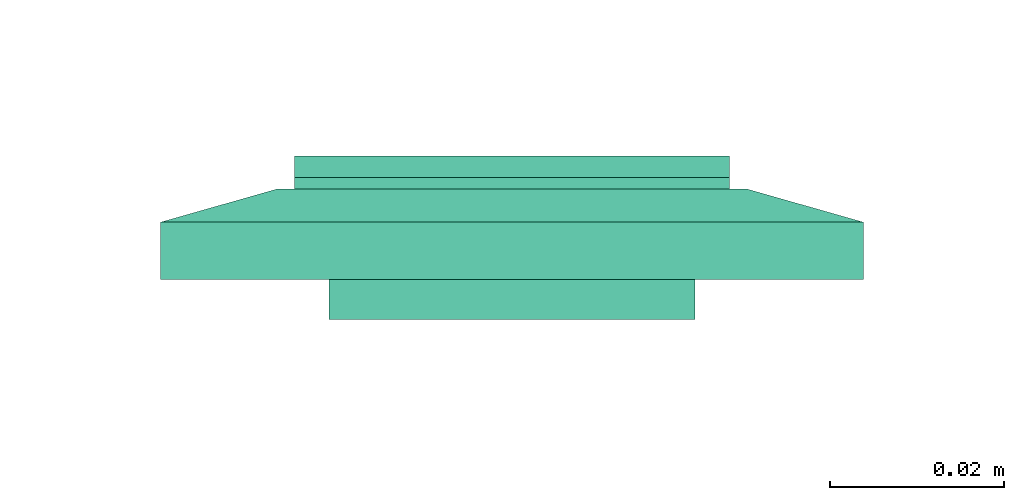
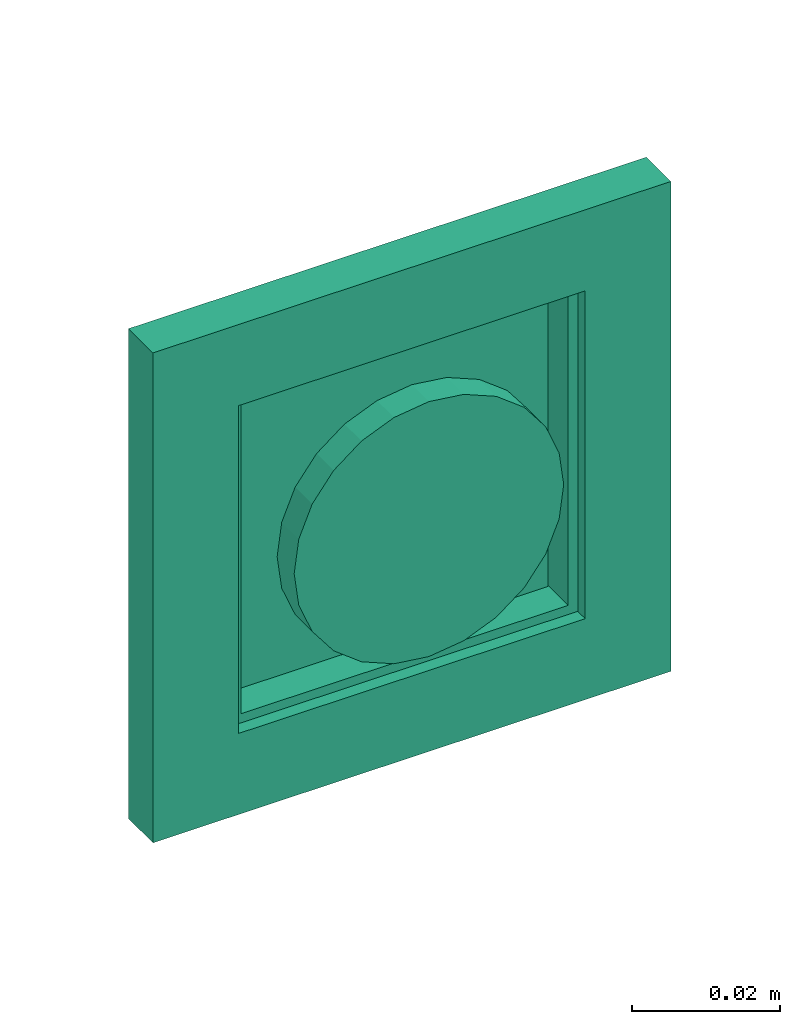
# One storey, part 39 of 153: 1 flow terminal.
"""IFC2X3 building model written with IfcOpenShell, lengths in metres."""

from ifc_helpers import new_model, entity, si_unit, converted_unit, derived_unit, direction, frame, origin, place, context, subcontext, project, spatial, faceted_brep, source, transform, mapped, type_object, type_shapes, element, save


model = new_model("IFC2X3")

# Units and contexts
model_context = context("Model", 3, precision=1e-05, world=origin(), true_north=direction((6.12303176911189e-17, 1.0)))
body_context = subcontext(model_context, "Body", "Model", "MODEL_VIEW")
ifc_project = project(units=[si_unit("LENGTHUNIT", "METRE"), si_unit("AREAUNIT", "SQUARE_METRE"), si_unit("VOLUMEUNIT", "CUBIC_METRE"), converted_unit("PLANEANGLEUNIT", "DEGREE", entity("IfcRatioMeasure", 0.0174532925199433), si_unit("PLANEANGLEUNIT", "RADIAN"), dimensions=[0, 0, 0, 0, 0, 0, 0]), si_unit("MASSUNIT", "GRAM", prefix="KILO"), derived_unit("MASSDENSITYUNIT", [(si_unit("MASSUNIT", "GRAM", prefix="KILO"), 1), (si_unit("LENGTHUNIT", "METRE"), -3)]), si_unit("TIMEUNIT", "SECOND"), si_unit("FREQUENCYUNIT", "HERTZ"), si_unit("THERMODYNAMICTEMPERATUREUNIT", "DEGREE_CELSIUS"), derived_unit("THERMALTRANSMITTANCEUNIT", [(si_unit("MASSUNIT", "GRAM", prefix="KILO"), 1), (si_unit("THERMODYNAMICTEMPERATUREUNIT", "KELVIN"), -1), (si_unit("TIMEUNIT", "SECOND"), -3)]), derived_unit("VOLUMETRICFLOWRATEUNIT", [(si_unit("LENGTHUNIT", "METRE"), 3), (si_unit("TIMEUNIT", "SECOND"), -1)]), si_unit("ELECTRICCURRENTUNIT", "AMPERE"), si_unit("ELECTRICVOLTAGEUNIT", "VOLT"), si_unit("POWERUNIT", "WATT"), si_unit("FORCEUNIT", "NEWTON"), si_unit("ILLUMINANCEUNIT", "LUX"), si_unit("LUMINOUSFLUXUNIT", "LUMEN"), si_unit("LUMINOUSINTENSITYUNIT", "CANDELA"), derived_unit("USERDEFINED", [(si_unit("MASSUNIT", "GRAM", prefix="KILO"), -1), (si_unit("LENGTHUNIT", "METRE"), -2), (si_unit("TIMEUNIT", "SECOND"), 3), (si_unit("LUMINOUSFLUXUNIT", "LUMEN"), 1)]), derived_unit("LINEARVELOCITYUNIT", [(si_unit("LENGTHUNIT", "METRE"), 1), (si_unit("TIMEUNIT", "SECOND"), -1)]), si_unit("PRESSUREUNIT", "PASCAL"), derived_unit("USERDEFINED", [(si_unit("LENGTHUNIT", "METRE"), -2), (si_unit("MASSUNIT", "GRAM", prefix="KILO"), 1), (si_unit("TIMEUNIT", "SECOND"), -2)])], contexts=[model_context])

# Site, building, storey
site_placement = place(None, origin())
site = spatial("IfcSite", under=ifc_project, at=site_placement, Name="Default", CompositionType="ELEMENT")
building_placement = place(site_placement, origin())
building = spatial("IfcBuilding", under=site, at=building_placement, CompositionType="ELEMENT")
storey_placement = place(building_placement, frame((0.0, 0.0, -4.62)))
storey = spatial("IfcBuildingStorey", under=building, at=storey_placement, Name="S02", CompositionType="ELEMENT", Elevation=-4.62)

# Flow terminal
light_fixture_type = type_object("IfcLightFixtureType", Name="SA IP44", PredefinedType="NOTDEFINED")
shared_shape = source(origin(), body_context, "Body", "Brep", [
    faceted_brep([(0.0, 0.0209999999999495, -0.00460000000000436), (0.00543519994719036, 0.02028444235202, -0.00460000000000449), (0.0105000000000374, 0.0181865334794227, -0.00460000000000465), (0.0148492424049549, 0.014849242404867, -0.00460000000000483), (0.0181865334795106, 0.0104999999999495, -0.00460000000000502), (0.0202844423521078, 0.00543519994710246, -0.00460000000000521), (0.0210000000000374, 0.0, -0.00460000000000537), (0.0202844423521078, -0.00543519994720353, -0.00460000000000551), (0.0181865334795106, -0.0105000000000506, -0.0046000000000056), (0.0148492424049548, -0.0148492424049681, -0.00460000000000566), (0.0105000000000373, -0.0181865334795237, -0.00460000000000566), (0.00543519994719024, -0.0202844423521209, -0.00460000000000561), (0.0, -0.0210000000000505, -0.00460000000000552), (-0.00543519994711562, -0.0202844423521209, -0.00460000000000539), (-0.0104999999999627, -0.0181865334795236, -0.00460000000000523), (-0.0148492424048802, -0.0148492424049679, -0.00460000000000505), (-0.0181865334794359, -0.0105000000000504, -0.00460000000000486), (-0.0202844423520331, -0.00543519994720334, -0.00460000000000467), (-0.0209999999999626, 0.0, -0.00460000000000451), (-0.020284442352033, 0.00543519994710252, -0.00460000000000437), (-0.0181865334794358, 0.0104999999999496, -0.00460000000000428), (-0.0148492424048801, 0.0148492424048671, -0.00460000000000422), (-0.0104999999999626, 0.0181865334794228, -0.00460000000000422), (-0.00543519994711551, 0.02028444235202, -0.00460000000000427), (-0.020284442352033, -0.00543519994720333, 0.0), (-0.0209999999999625, 0.0, 0.0), (-0.0181865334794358, -0.0105000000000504, 0.0), (-0.0104999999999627, -0.0181865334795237, 0.0), (-0.0148492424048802, -0.0148492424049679, 0.0), (-0.00543519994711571, -0.020284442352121, 0.0), (0.0, -0.0210000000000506, 0.0), (0.00543519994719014, -0.0202844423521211, 0.0), (0.0105000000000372, -0.018186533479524, 0.0), (0.0181865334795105, -0.0105000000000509, 0.0), (0.0148492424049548, -0.0148492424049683, 0.0), (0.0202844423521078, -0.00543519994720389, 0.0), (0.0210000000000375, 0.0, 0.0), (0.0202844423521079, 0.00543519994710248, 0.0), (0.0181865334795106, 0.0104999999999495, 0.0), (0.0105000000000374, 0.0181865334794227, 0.0), (0.0148492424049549, 0.014849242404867, 0.0), (0.00543519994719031, 0.0202844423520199, 0.0), (0.0, 0.0209999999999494, 0.0), (-0.00543519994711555, 0.0202844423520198, 0.0), (-0.0104999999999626, 0.0181865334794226, 0.0), (-0.0181865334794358, 0.0104999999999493, 0.0), (-0.0148492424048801, 0.0148492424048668, 0.0), (-0.020284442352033, 0.00543519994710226, 0.0)], [[[0, 1, 2, 3, 4, 5, 6, 7, 8, 9, 10, 11, 12, 13, 14, 15, 16, 17, 18, 19, 20, 21, 22, 23]], [[17, 24, 25, 18]], [[16, 26, 24, 17]], [[27, 28, 15, 14]], [[16, 15, 28, 26]], [[29, 27, 14, 13]], [[30, 29, 13, 12]], [[11, 31, 30, 12]], [[10, 32, 31, 11]], [[33, 34, 9, 8]], [[10, 9, 34, 32]], [[35, 33, 8, 7]], [[36, 35, 7, 6]], [[5, 37, 36, 6]], [[4, 38, 37, 5]], [[39, 40, 3, 2]], [[4, 3, 40, 38]], [[41, 39, 2, 1]], [[42, 41, 1, 0]], [[23, 43, 42, 0]], [[22, 44, 43, 23]], [[45, 46, 21, 20]], [[22, 21, 46, 44]], [[47, 45, 20, 19]], [[25, 47, 19, 18]], [[25, 24, 26, 28, 27, 29, 30, 31, 32, 34, 33, 35, 36, 37, 38, 40, 39, 41, 42, 43, 44, 46, 45, 47]]]),
    faceted_brep([(0.0270000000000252, 0.026999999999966, 0.0103999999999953), (-0.0269999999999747, 0.026999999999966, 0.0103999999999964), (-0.0269999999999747, -0.0270000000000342, 0.0103999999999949), (0.0270000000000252, -0.0270000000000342, 0.0103999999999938), (-0.0254999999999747, 0.0258096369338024, 0.0103999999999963), (0.0255000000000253, 0.0258096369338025, 0.0103999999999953), (0.0255000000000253, -0.0255000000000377, 0.0103999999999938), (-0.0254999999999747, -0.0255000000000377, 0.0103999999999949), (0.0270000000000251, 0.0269999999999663, 0.00199999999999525), (0.0270000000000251, -0.0270000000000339, 0.00199999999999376), (-0.0269999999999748, -0.0270000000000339, 0.00199999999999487), (-0.0269999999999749, 0.0269999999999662, 0.00199999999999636), (0.0255000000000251, 0.0258096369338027, 0.00199999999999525), (-0.0254999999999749, 0.0258096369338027, 0.0019999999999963), (-0.0254999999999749, -0.0255000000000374, 0.00199999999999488), (0.0255000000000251, -0.0255000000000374, 0.00199999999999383)], [[[0, 1, 2, 3], [4, 5, 6, 7]], [[8, 9, 10, 11], [12, 13, 14, 15]], [[1, 0, 8, 11]], [[2, 1, 11, 10]], [[3, 2, 10, 9]], [[0, 3, 9, 8]], [[12, 5, 4, 13]], [[13, 4, 7, 14]], [[14, 7, 6, 15]], [[5, 12, 15, 6]]]),
    faceted_brep([(0.0250000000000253, 0.0253096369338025, 0.00659999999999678), (0.0250000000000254, 0.0253096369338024, 0.0117095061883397), (0.0250000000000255, -0.0245000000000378, 0.0142232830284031), (0.0250000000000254, -0.0250000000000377, 0.0117095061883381), (0.0250000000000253, -0.0250000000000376, 0.00659999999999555), (-0.0249999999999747, 0.0253096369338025, 0.00659999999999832), (-0.0249999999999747, -0.0250000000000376, 0.00659999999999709), (-0.0249999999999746, -0.0250000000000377, 0.0117095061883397), (-0.0249999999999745, -0.0245000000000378, 0.0142232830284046), (-0.0249999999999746, 0.0253096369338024, 0.0117095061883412)], [[[0, 1, 2, 3, 4]], [[5, 6, 7, 8, 9]], [[1, 0, 5, 9]], [[2, 1, 9, 8]], [[3, 2, 8, 7]], [[4, 3, 7, 6]], [[0, 4, 6, 5]]]),
    faceted_brep([(0.027000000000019, 0.0269999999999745, 0.00659999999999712), (-0.0269999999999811, 0.0269999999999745, 0.00659999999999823), (-0.026999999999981, -0.0270000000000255, 0.00659999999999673), (0.027000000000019, -0.0270000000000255, 0.00659999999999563), (0.040350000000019, 0.0403499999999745, 0.00659999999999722), (0.040350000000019, -0.0403500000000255, 0.00659999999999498), (-0.0403499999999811, -0.0403500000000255, 0.00659999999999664), (-0.0403499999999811, 0.0403499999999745, 0.00659999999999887), (-0.026999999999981, 0.0269999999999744, 0.0103999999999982), (0.027000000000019, 0.0269999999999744, 0.0103999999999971), (-0.026999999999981, -0.0270000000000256, 0.0103999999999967), (0.027000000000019, -0.0270000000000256, 0.0103999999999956)], [[[0, 1, 2, 3], [4, 5, 6, 7]], [[4, 7, 8, 9]], [[7, 6, 10, 8]], [[6, 5, 11, 10]], [[5, 4, 9, 11]], [[0, 9, 8, 1]], [[1, 8, 10, 2]], [[2, 10, 11, 3]], [[9, 0, 3, 11]]], outer=[[False, True], [True], [True], [True], [True], [True], [True], [True], [True]]),
    faceted_brep([(0.040350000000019, 0.0403499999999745, 0.00659999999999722), (-0.0403499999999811, 0.0403499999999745, 0.00659999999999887), (-0.0403499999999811, -0.0403500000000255, 0.00659999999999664), (0.040350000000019, -0.0403500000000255, 0.00659999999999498), (-0.0269999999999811, 0.0269999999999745, 0.00659999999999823), (0.0270000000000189, 0.0269999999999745, 0.00659999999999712), (0.0270000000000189, -0.0270000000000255, 0.00659999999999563), (-0.0269999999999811, -0.0270000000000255, 0.00659999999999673), (0.0403500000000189, 0.0403499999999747, 0.0), (0.0403500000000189, -0.0403500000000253, 0.0), (-0.0403499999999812, -0.0403500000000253, 0.0), (-0.0403499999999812, 0.0403499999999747, 0.0), (0.0270000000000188, 0.0269999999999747, 0.0), (-0.0269999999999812, 0.0269999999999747, 0.0), (-0.0269999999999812, -0.0270000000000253, 0.0), (0.0270000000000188, -0.0270000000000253, 0.0)], [[[0, 1, 2, 3], [4, 5, 6, 7]], [[8, 9, 10, 11], [12, 13, 14, 15]], [[1, 0, 8, 11]], [[2, 1, 11, 10]], [[3, 2, 10, 9]], [[0, 3, 9, 8]], [[12, 5, 4, 13]], [[13, 4, 7, 14]], [[14, 7, 6, 15]], [[5, 12, 15, 6]]]),
])
type_shapes(light_fixture_type, [shared_shape])
flow_terminal_placement = place(storey_placement, frame((39.003743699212, -193.259651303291, 0.880000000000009), z_axis=(0.0, 1.0, 0.0), x_axis=(-1.0, 0.0, 0.0)))
element("IfcFlowTerminal", 1, at=flow_terminal_placement, inside=storey, type_object=light_fixture_type, Name="INT_Inter SA:SA IP44", ObjectType="INT_Inter SA:SA IP44", context=body_context, shape_type="MappedRepresentation", body=[
    mapped(shared_shape, transform((0.0, 0.0, 0.0), scale=1.0)),
])

save(model, "model.ifc")
